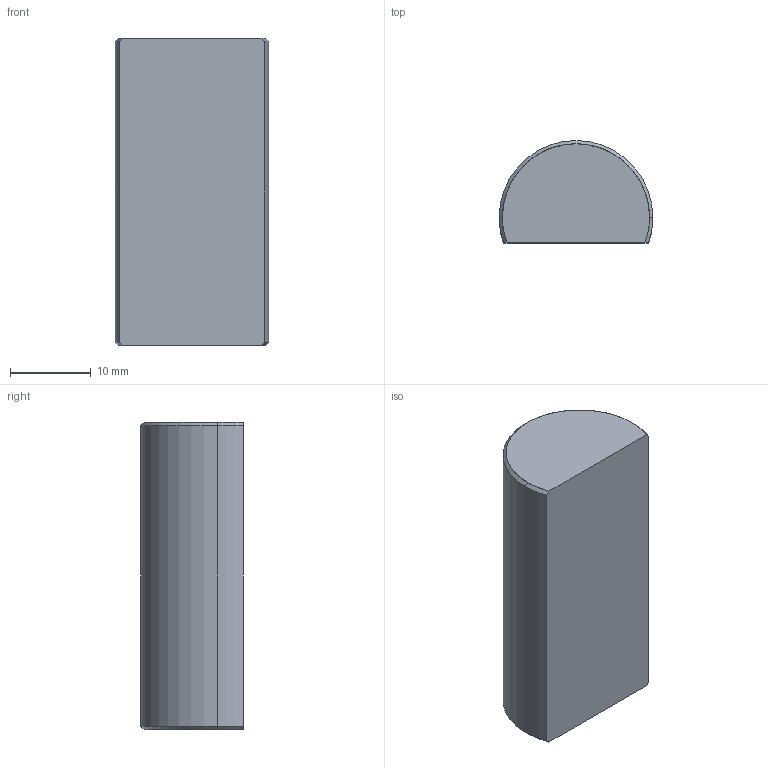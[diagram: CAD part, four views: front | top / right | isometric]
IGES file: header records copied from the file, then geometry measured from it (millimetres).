
Start section: SolidWorks IGES file using analytic representation for surfaces
Global section: file name: D:\Solid_parts\MECHeDESIGN\Bal-Tec\Catalog 105-A\Distribution\IGES\750-TC.IGS; native system: SolidWorks 2005 by SolidWorks Corporation; preprocessor: SolidWorks 2005 by SolidWorks Corporation; author: rvillegas; date: 061205.191318; units: inch
Bounding box: 19.05 x 12.7 x 38.1 mm (x, y, z)
Surface area: 2456.9 mm2 (no closed solid volume)
Topology: 0 solids, 0 shells, 12 faces, 86 edges, 86 vertices
Faces by surface type: revolution 9, bspline 3
